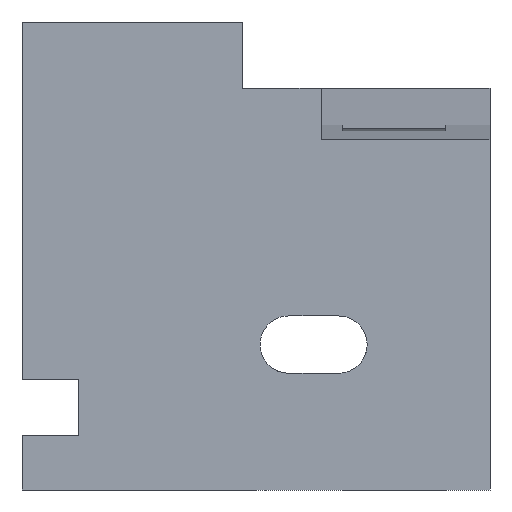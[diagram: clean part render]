
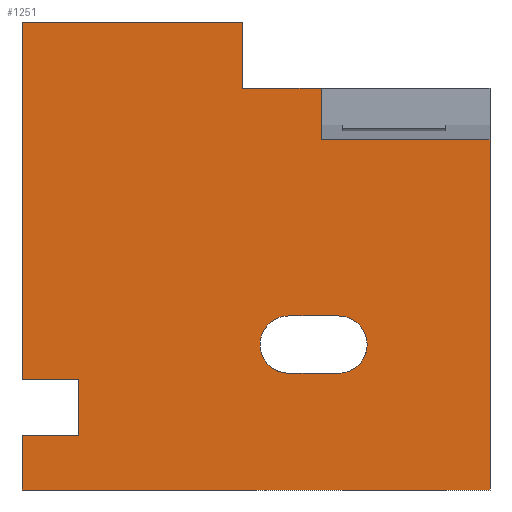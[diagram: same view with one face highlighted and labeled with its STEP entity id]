
A CAD part, left-side view. The second image highlights one B-rep face of the part: STEP entity #1251.
In plain terms, the highlighted planar face has unit normal (-1, 0, 0).
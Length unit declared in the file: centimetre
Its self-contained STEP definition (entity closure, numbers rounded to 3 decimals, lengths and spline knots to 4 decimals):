
#15 = EDGE_CURVE ( 'NONE', #750, #814, #1011, .T. ) ;
#28 = CARTESIAN_POINT ( 'NONE',  ( 0., 1000., 1000. ) ) ;
#59 = ORIENTED_EDGE ( 'NONE', *, *, #173, .T. ) ;
#72 = AXIS2_PLACEMENT_3D ( 'NONE', #1082, #797, #1356 ) ;
#75 = CARTESIAN_POINT ( 'NONE',  ( 0., 1000., 116.4378 ) ) ;
#89 = ORIENTED_EDGE ( 'NONE', *, *, #399, .T. ) ;
#99 = VECTOR ( 'NONE', #1469, 100. ) ;
#120 = CARTESIAN_POINT ( 'NONE',  ( 0., 1000., 236.3763 ) ) ;
#125 = EDGE_LOOP ( 'NONE', ( #1183, #1048, #265, #1135, #1103, #596, #526, #1085, #89, #252, #178, #845 ) ) ;
#127 = VECTOR ( 'NONE', #1643, 100. ) ;
#145 = CARTESIAN_POINT ( 'NONE',  ( 0., 528.3139, 858.9025 ) ) ;
#173 = EDGE_CURVE ( 'NONE', #814, #1767, #1237, .T. ) ;
#178 = ORIENTED_EDGE ( 'NONE', *, *, #484, .F. ) ;
#186 = DIRECTION ( 'NONE',  ( 0., 0., -1. ) ) ;
#197 = EDGE_CURVE ( 'NONE', #218, #1115, #981, .T. ) ;
#198 = DIRECTION ( 'NONE',  ( 0., -1., 0. ) ) ;
#209 = VERTEX_POINT ( 'NONE', #401 ) ;
#218 = VERTEX_POINT ( 'NONE', #145 ) ;
#240 = LINE ( 'NONE', #1224, #1045 ) ;
#252 = ORIENTED_EDGE ( 'NONE', *, *, #1206, .T. ) ;
#265 = ORIENTED_EDGE ( 'NONE', *, *, #1109, .F. ) ;
#286 = EDGE_CURVE ( 'NONE', #1593, #209, #427, .T. ) ;
#295 = DIRECTION ( 'NONE',  ( 0., 0., -1. ) ) ;
#334 = DIRECTION ( 'NONE',  ( 0., 0., -1. ) ) ;
#345 = VERTEX_POINT ( 'NONE', #594 ) ;
#351 = CARTESIAN_POINT ( 'NONE',  ( 0., 429.9025, 372.0269 ) ) ;
#384 = FACE_OUTER_BOUND ( 'NONE', #125, .T. ) ;
#396 = PLANE ( 'NONE',  #72 ) ;
#399 = EDGE_CURVE ( 'NONE', #1593, #1572, #1296, .T. ) ;
#401 = CARTESIAN_POINT ( 'NONE',  ( 0., 879.9761, 116.4378 ) ) ;
#417 = DIRECTION ( 'NONE',  ( 1., 0., 0. ) ) ;
#422 = VECTOR ( 'NONE', #198, 100. ) ;
#427 = LINE ( 'NONE', #546, #127 ) ;
#428 = ORIENTED_EDGE ( 'NONE', *, *, #1373, .T. ) ;
#441 = VECTOR ( 'NONE', #1600, 100. ) ;
#469 = VERTEX_POINT ( 'NONE', #1073 ) ;
#471 = EDGE_CURVE ( 'NONE', #469, #1785, #1626, .T. ) ;
#478 = CARTESIAN_POINT ( 'NONE',  ( 0., 879.9761, 236.3763 ) ) ;
#479 = AXIS2_PLACEMENT_3D ( 'NONE', #1249, #417, #983 ) ;
#484 = EDGE_CURVE ( 'NONE', #1785, #345, #1349, .T. ) ;
#488 = CARTESIAN_POINT ( 'NONE',  ( 0., 360.9052, 748.5039 ) ) ;
#509 = CARTESIAN_POINT ( 'NONE',  ( 0., 1000., 1000. ) ) ;
#526 = ORIENTED_EDGE ( 'NONE', *, *, #1763, .F. ) ;
#532 = DIRECTION ( 'NONE',  ( 0., -1., 0. ) ) ;
#546 = CARTESIAN_POINT ( 'NONE',  ( 0., 879.9761, 116.4378 ) ) ;
#555 = DIRECTION ( 'NONE',  ( 0., -1., 0. ) ) ;
#563 = EDGE_CURVE ( 'NONE', #1115, #469, #936, .T. ) ;
#564 = VECTOR ( 'NONE', #555, 100. ) ;
#594 = CARTESIAN_POINT ( 'NONE',  ( 0., 0., 0. ) ) ;
#596 = ORIENTED_EDGE ( 'NONE', *, *, #1597, .F. ) ;
#608 = CARTESIAN_POINT ( 'NONE',  ( 0., 323.721, 249.3463 ) ) ;
#623 = LINE ( 'NONE', #775, #1651 ) ;
#635 = EDGE_CURVE ( 'NONE', #1708, #750, #1226, .T. ) ;
#720 = EDGE_CURVE ( 'NONE', #968, #1202, #1409, .T. ) ;
#750 = VERTEX_POINT ( 'NONE', #980 ) ;
#775 = CARTESIAN_POINT ( 'NONE',  ( 0., 1000., 1000. ) ) ;
#797 = DIRECTION ( 'NONE',  ( 1., 0., 0. ) ) ;
#814 = VERTEX_POINT ( 'NONE', #608 ) ;
#816 = VERTEX_POINT ( 'NONE', #1295 ) ;
#824 = ORIENTED_EDGE ( 'NONE', *, *, #635, .T. ) ;
#845 = ORIENTED_EDGE ( 'NONE', *, *, #471, .F. ) ;
#861 = VECTOR ( 'NONE', #1813, 100. ) ;
#865 = VECTOR ( 'NONE', #334, 100. ) ;
#900 = DIRECTION ( 'NONE',  ( 0., 0., -1. ) ) ;
#906 = CARTESIAN_POINT ( 'NONE',  ( 0., 1000., 1000. ) ) ;
#936 = LINE ( 'NONE', #1589, #1768 ) ;
#968 = VERTEX_POINT ( 'NONE', #906 ) ;
#970 = FACE_BOUND ( 'NONE', #1636, .T. ) ;
#980 = CARTESIAN_POINT ( 'NONE',  ( 0., 323.721, 372.0269 ) ) ;
#981 = LINE ( 'NONE', #1247, #564 ) ;
#983 = DIRECTION ( 'NONE',  ( 0., 0., -1. ) ) ;
#1011 = CIRCLE ( 'NONE', #479, 61.3403 ) ;
#1032 = DIRECTION ( 'NONE',  ( 0., -1., 0. ) ) ;
#1045 = VECTOR ( 'NONE', #1798, 100. ) ;
#1046 = CARTESIAN_POINT ( 'NONE',  ( 0., 879.9761, 116.4378 ) ) ;
#1048 = ORIENTED_EDGE ( 'NONE', *, *, #197, .F. ) ;
#1060 = CARTESIAN_POINT ( 'NONE',  ( 0., 1000., 0. ) ) ;
#1073 = CARTESIAN_POINT ( 'NONE',  ( 0., 360.9052, 748.5039 ) ) ;
#1082 = CARTESIAN_POINT ( 'NONE',  ( 0., 1000., 1000. ) ) ;
#1085 = ORIENTED_EDGE ( 'NONE', *, *, #286, .F. ) ;
#1096 = EDGE_CURVE ( 'NONE', #968, #816, #623, .T. ) ;
#1103 = ORIENTED_EDGE ( 'NONE', *, *, #720, .T. ) ;
#1109 = EDGE_CURVE ( 'NONE', #816, #218, #1601, .T. ) ;
#1115 = VERTEX_POINT ( 'NONE', #1193 ) ;
#1122 = DIRECTION ( 'NONE',  ( 1., 0., 0. ) ) ;
#1131 = AXIS2_PLACEMENT_3D ( 'NONE', #1668, #1122, #1144 ) ;
#1135 = ORIENTED_EDGE ( 'NONE', *, *, #1096, .F. ) ;
#1144 = DIRECTION ( 'NONE',  ( 0., 0., -1. ) ) ;
#1183 = ORIENTED_EDGE ( 'NONE', *, *, #563, .F. ) ;
#1193 = CARTESIAN_POINT ( 'NONE',  ( 0., 360.9052, 858.9025 ) ) ;
#1202 = VERTEX_POINT ( 'NONE', #120 ) ;
#1206 = EDGE_CURVE ( 'NONE', #1572, #345, #240, .T. ) ;
#1224 = CARTESIAN_POINT ( 'NONE',  ( 0., 1000., 0. ) ) ;
#1226 = LINE ( 'NONE', #1235, #1504 ) ;
#1235 = CARTESIAN_POINT ( 'NONE',  ( 0., 429.9025, 372.0269 ) ) ;
#1237 = LINE ( 'NONE', #1257, #861 ) ;
#1243 = ORIENTED_EDGE ( 'NONE', *, *, #15, .T. ) ;
#1247 = CARTESIAN_POINT ( 'NONE',  ( 0., 528.3139, 858.9025 ) ) ;
#1249 = CARTESIAN_POINT ( 'NONE',  ( 0., 323.721, 310.6866 ) ) ;
#1251 = ADVANCED_FACE ( 'NONE', ( #970, #384 ), #396, .F. ) ;
#1257 = CARTESIAN_POINT ( 'NONE',  ( 0., 323.721, 249.3463 ) ) ;
#1295 = CARTESIAN_POINT ( 'NONE',  ( 0., 528.3139, 1000. ) ) ;
#1296 = LINE ( 'NONE', #28, #1297 ) ;
#1297 = VECTOR ( 'NONE', #186, 100. ) ;
#1334 = CARTESIAN_POINT ( 'NONE',  ( 0., 429.9025, 249.3463 ) ) ;
#1349 = LINE ( 'NONE', #1599, #99 ) ;
#1356 = DIRECTION ( 'NONE',  ( 0., 0., -1. ) ) ;
#1373 = EDGE_CURVE ( 'NONE', #1767, #1708, #1654, .T. ) ;
#1409 = LINE ( 'NONE', #509, #1735 ) ;
#1424 = VECTOR ( 'NONE', #1480, 100. ) ;
#1453 = CARTESIAN_POINT ( 'NONE',  ( 0., 879.9761, 236.3763 ) ) ;
#1469 = DIRECTION ( 'NONE',  ( 0., 0., -1. ) ) ;
#1480 = DIRECTION ( 'NONE',  ( 0., 1., 0. ) ) ;
#1504 = VECTOR ( 'NONE', #532, 100. ) ;
#1572 = VERTEX_POINT ( 'NONE', #1060 ) ;
#1589 = CARTESIAN_POINT ( 'NONE',  ( 0., 360.9052, 748.5039 ) ) ;
#1590 = CARTESIAN_POINT ( 'NONE',  ( 0., 528.3139, 858.9025 ) ) ;
#1593 = VERTEX_POINT ( 'NONE', #75 ) ;
#1597 = EDGE_CURVE ( 'NONE', #1718, #1202, #1614, .T. ) ;
#1599 = CARTESIAN_POINT ( 'NONE',  ( 0., 0., 1000. ) ) ;
#1600 = DIRECTION ( 'NONE',  ( 0., 0., 1. ) ) ;
#1601 = LINE ( 'NONE', #1590, #865 ) ;
#1614 = LINE ( 'NONE', #1453, #1424 ) ;
#1626 = LINE ( 'NONE', #488, #422 ) ;
#1636 = EDGE_LOOP ( 'NONE', ( #824, #1243, #59, #428 ) ) ;
#1643 = DIRECTION ( 'NONE',  ( 0., -1., 0. ) ) ;
#1651 = VECTOR ( 'NONE', #1032, 100. ) ;
#1654 = CIRCLE ( 'NONE', #1131, 61.3403 ) ;
#1663 = CARTESIAN_POINT ( 'NONE',  ( 0., 0., 748.5039 ) ) ;
#1668 = CARTESIAN_POINT ( 'NONE',  ( 0., 429.9025, 310.6866 ) ) ;
#1708 = VERTEX_POINT ( 'NONE', #351 ) ;
#1718 = VERTEX_POINT ( 'NONE', #478 ) ;
#1734 = LINE ( 'NONE', #1046, #441 ) ;
#1735 = VECTOR ( 'NONE', #295, 100. ) ;
#1763 = EDGE_CURVE ( 'NONE', #209, #1718, #1734, .T. ) ;
#1767 = VERTEX_POINT ( 'NONE', #1334 ) ;
#1768 = VECTOR ( 'NONE', #900, 100. ) ;
#1785 = VERTEX_POINT ( 'NONE', #1663 ) ;
#1798 = DIRECTION ( 'NONE',  ( 0., -1., 0. ) ) ;
#1813 = DIRECTION ( 'NONE',  ( 0., 1., 0. ) ) ;
